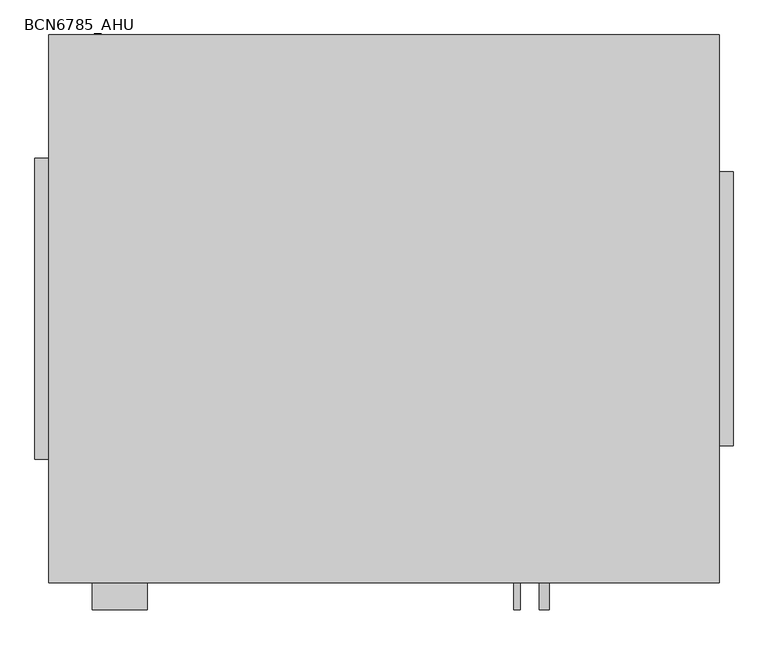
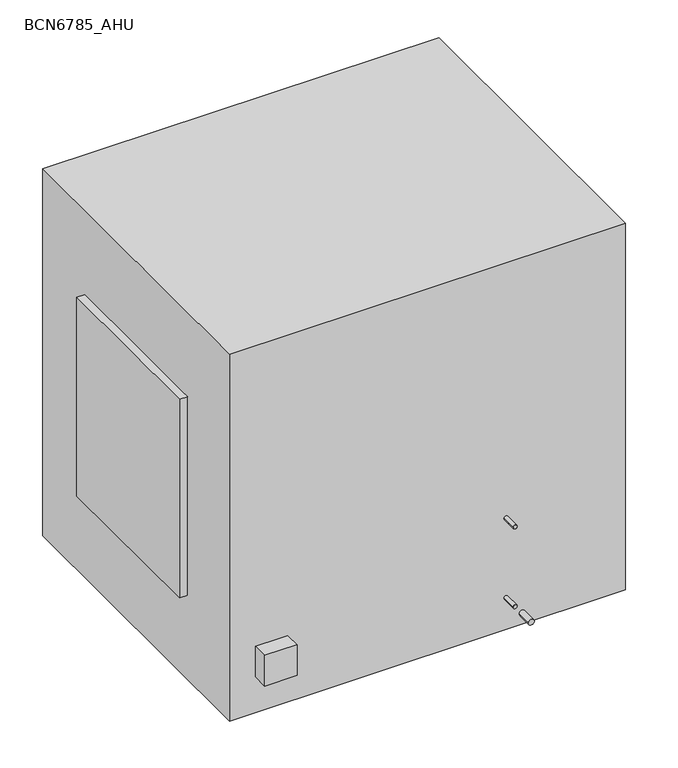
"""IFC4 building model written with IfcOpenShell, lengths in millimetres: proxy geometry, BCN6785_AHU : D3060300_IndoorAHUHorizontal_ChilledWaterCoil_UnitSize 54."""

from ifc_helpers import new_model, si_unit, point, frame, frame_2d, origin, origin_with_axes, place, context, project, spatial, polyline, circle_curve, trimmed, segment, composite_curve, outline, extrude, source, transform, mapped, element, save


def bcn6785_ahu_336a5cc9(model_context):
    return source(origin(), model_context, "Body", "SweptSolid", [
        extrude(outline(polyline([(1244.6, 1016.0), (1244.6, 0.0), (0.0, 0.0), (0.0, 1016.0), (1244.6, 1016.0)])), origin_with_axes(), (0.0, 0.0, 1.0), 1219.2),
        extrude(outline(composite_curve([segment(trimmed(circle_curve(frame_2d((38.1, 919.734)), 9.525), [point((38.1, 910.209))], [point((38.1, 929.259))], False, "CARTESIAN"), True, "CONTINUOUS"), segment(trimmed(circle_curve(frame_2d((38.1, 919.734)), 9.525), [point((38.1, 929.259))], [point((38.1, 910.209))], False, "CARTESIAN"), True, "CONTINUOUS")], self_intersect=False)), frame((0.0, -50.8, 0.0), z_axis=(0.0, 1.0, 0.0), x_axis=(0.0, 0.0, 1.0)), (0.0, 0.0, 1.0), 50.8),
        extrude(outline(composite_curve([segment(trimmed(circle_curve(frame_2d((106.9578125, 868.934)), 6.35), [point((106.9578125, 862.584))], [point((106.9578125, 875.284))], False, "CARTESIAN"), True, "CONTINUOUS"), segment(trimmed(circle_curve(frame_2d((106.9578125, 868.934)), 6.35), [point((106.9578125, 875.284))], [point((106.9578125, 862.584))], False, "CARTESIAN"), True, "CONTINUOUS")], self_intersect=False)), frame((0.0, -50.8, 0.0), z_axis=(0.0, 1.0, 0.0), x_axis=(0.0, 0.0, 1.0)), (0.0, 0.0, 1.0), 50.8),
        extrude(outline(composite_curve([segment(trimmed(circle_curve(frame_2d((371.871875, 868.934)), 6.35), [point((371.871875, 862.584))], [point((371.871875, 875.284))], False, "CARTESIAN"), True, "CONTINUOUS"), segment(trimmed(circle_curve(frame_2d((371.871875, 868.934)), 6.35), [point((371.871875, 875.284))], [point((371.871875, 862.584))], False, "CARTESIAN"), True, "CONTINUOUS")], self_intersect=False)), frame((0.0, -50.8, 0.0), z_axis=(0.0, 1.0, 0.0), x_axis=(0.0, 0.0, 1.0)), (0.0, 0.0, 1.0), 50.8),
        extrude(outline(polyline([(182.88, -50.8), (81.28, -50.8), (81.28, 0.0), (182.88, 0.0), (182.88, -50.8)])), frame((0.0, 0.0, 118.872), z_axis=(0.0, 0.0, 1.0), x_axis=(1.0, 0.0, 0.0)), (0.0, 0.0, 1.0), 101.6),
        extrude(outline(polyline([(1270.0, 762.0), (1270.0, 254.0), (1244.6, 254.0), (1244.6, 762.0), (1270.0, 762.0)])), frame((0.0, 0.0, 304.8), z_axis=(0.0, 0.0, 1.0), x_axis=(1.0, 0.0, 0.0)), (0.0, 0.0, 1.0), 609.6),
        extrude(outline(polyline([(0.0, 787.4), (0.0, 228.6), (-25.4, 228.6), (-25.4, 787.4), (0.0, 787.4)])), frame((0.0, 0.0, 279.4), z_axis=(0.0, 0.0, 1.0), x_axis=(1.0, 0.0, 0.0)), (0.0, 0.0, 1.0), 660.4),
    ])


if __name__ == "__main__":
    model = new_model("IFC4")
    model_context = context("Model", 3, world=origin())
    ifc_project = project(units=[si_unit("LENGTHUNIT", "METRE", prefix="MILLI")], contexts=[model_context])
    site = spatial("IfcSite", under=ifc_project)
    building = spatial("IfcBuilding", under=site)
    placement = place(None, origin())
    bcn6785_ahu_shape = bcn6785_ahu_336a5cc9(model_context)
    element("IfcBuildingElementProxy", 1, Name="BCN6785_AHU : D3060300_IndoorAHUHorizontal_ChilledWaterCoil_UnitSize 54", ObjectType="BCN6785_AHU : D3060300_IndoorAHUHorizontal_ChilledWaterCoil_UnitSize 54", at=placement, inside=building, context=model_context, shape_type="MappedRepresentation", body=[
        mapped(bcn6785_ahu_shape, transform((0.0, 0.0, 0.0), x_axis=(1.0, 0.0, 0.0), y_axis=(0.0, 1.0, 0.0), z_axis=(0.0, 0.0, 1.0))),
    ])
    save(model, "model.ifc")
